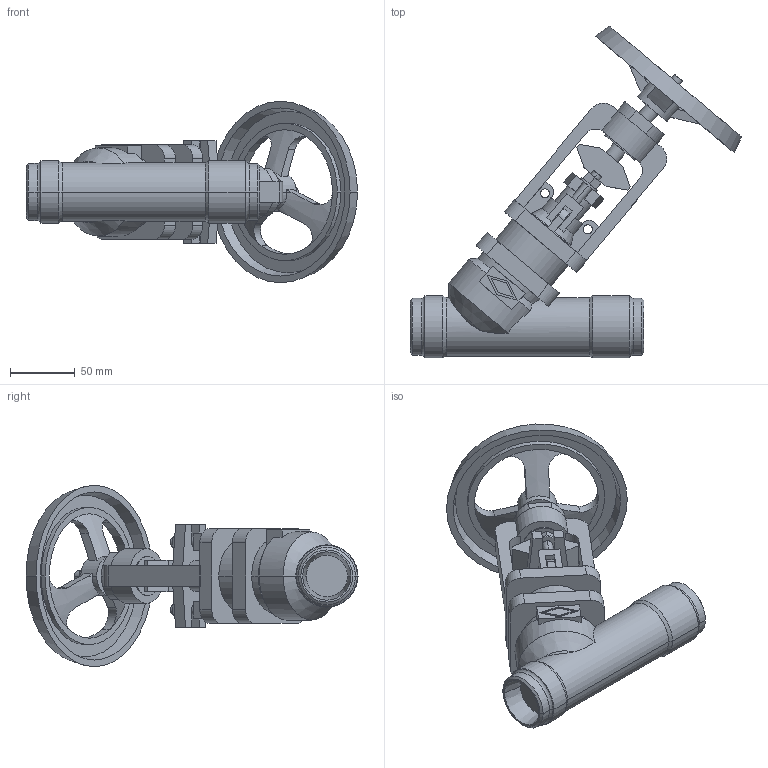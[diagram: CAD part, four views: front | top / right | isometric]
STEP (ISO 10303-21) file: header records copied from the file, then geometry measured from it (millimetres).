
FILE_DESCRIPTION(('OneSpaceDesigner STEP Export'),'2;1');
FILE_NAME('c000004360.stp','2010-05-11T 8:13:33',(''),(''),'OneSpace Designer STEP processor for AP214 (Solid Model)','OneSpace Modeling 15.50B 03-Nov-2007 (C) CoCreate Software GmbH','');
FILE_SCHEMA(('AUTOMOTIVE_DESIGN { 1 0 10303 214 1 1 1 1 }'));
Length unit declared in the file: millimetre
Products named in the file (1): 1
Bounding box: 255.29 x 256.05 x 140 mm (x, y, z)
Volume: 789932.1 mm3; surface area: 132773.8 mm2
Topology: 1 solids, 1 shells, 284 faces, 734 edges, 474 vertices
Faces by surface type: plane 144, cylinder 87, cone 39, torus 14
Entity records: 10806 total; most frequent: CARTESIAN_POINT 1949, ORIENTED_EDGE 1468, DIRECTION 1231, EDGE_CURVE 734, VERTEX_POINT 474, VECTOR 431, LINE 431, AXIS2_PLACEMENT_3D 400
